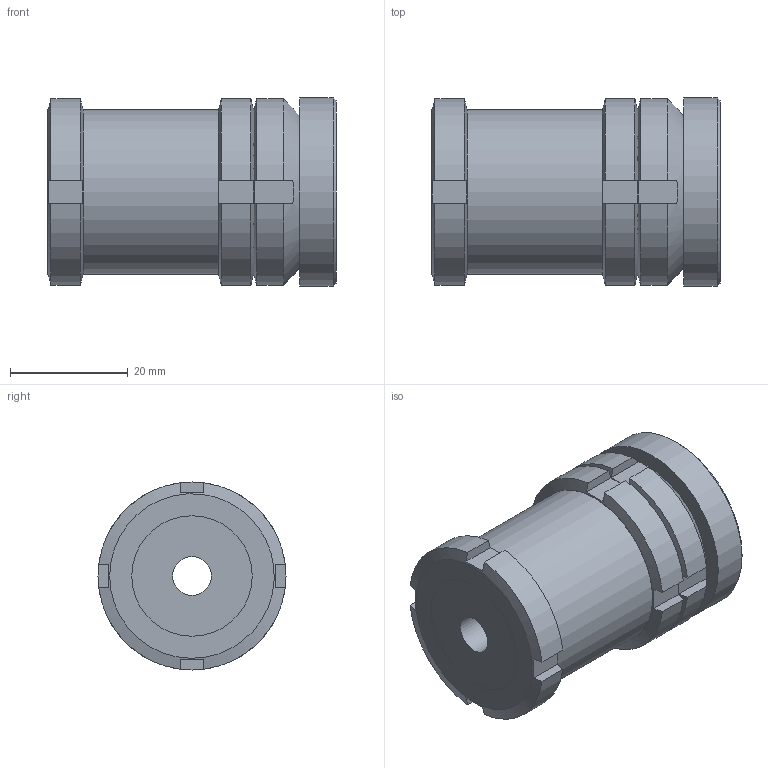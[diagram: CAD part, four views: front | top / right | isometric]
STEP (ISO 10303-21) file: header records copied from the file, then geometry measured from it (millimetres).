
FILE_DESCRIPTION( ( 'STEP AP203' ), '1' );
FILE_NAME( 'C:/Temp/Ganter_Step_05_03_2020/data/3_2/gn350_5/gn350_5_st/Levelling set GN 350.5-32-6,6-49-ST (0-0).stp', '2020-03-13T05:28:25', ( 'License CC BY-ND 4.0' ), ( 'CADENAS' ), ' ', 'PARTsolutions', ' ' );
FILE_SCHEMA( ( 'CONFIG_CONTROL_DESIGN' ) );
Length unit declared in the file: millimetre
Products named in the file (5): Levelling set GN 350.5-32-6,6-49-ST (0-0); _Levelling set GN 350.5-32-6,6-49-ST-G; _Levelling set GN 350.5-32-6,6-49-ST-K; _Levelling set GN 350.5-32-6,6-49-ST-P(0); _Levelling set GN 350.5-32-6,6-32-ST-KM
Assembly tree (4 placements, depth 2):
  Levelling set GN 350.5-32-6,6-49-ST (0-0)
    _Levelling set GN 350.5-32-6,6-49-ST-G
    _Levelling set GN 350.5-32-6,6-49-ST-K
    _Levelling set GN 350.5-32-6,6-49-ST-P(0)
    _Levelling set GN 350.5-32-6,6-32-ST-KM
Bounding box: 49 x 32 x 32 mm (x, y, z)
Volume: 32333.1 mm3; surface area: 15065.8 mm2
Topology: 4 solids, 4 shells, 84 faces, 209 edges, 139 vertices
Faces by surface type: plane 50, cylinder 24, cone 8, sphere 2
Full cylindrical faces by diameter (mm): 6.6 x1, 15 x1, 16.473 x1, 17.5 x1, 18.917 x2, 20 x2, 20.5 x2, 28 x1, 32 x1
Entity records: 2676 total; most frequent: CARTESIAN_POINT 695, DIRECTION 364, ORIENTED_EDGE 354, EDGE_CURVE 177, AXIS2_PLACEMENT_3D 158, VERTEX_POINT 129, EDGE_LOOP 120, FACE_OUTER_BOUND 98
